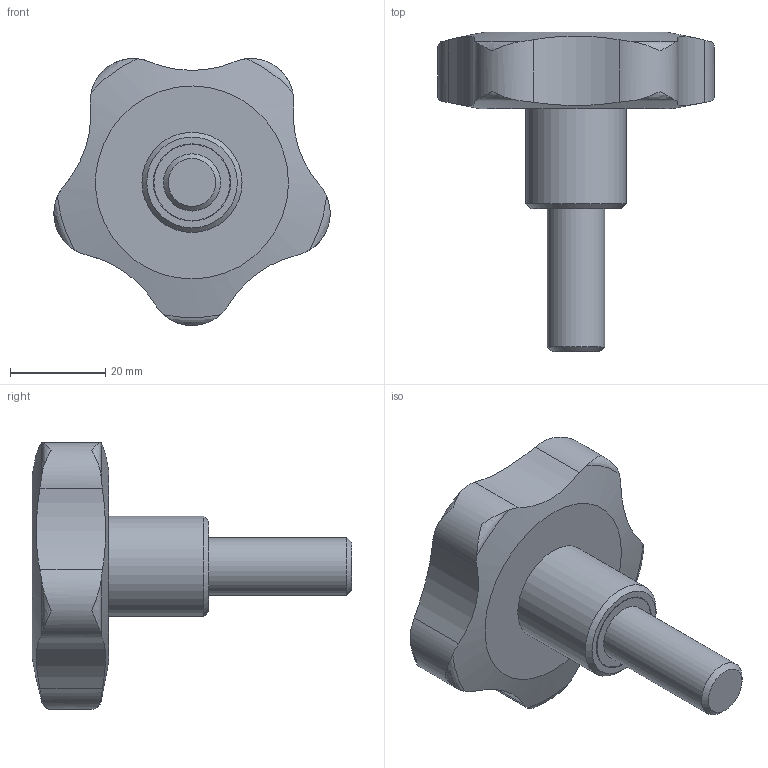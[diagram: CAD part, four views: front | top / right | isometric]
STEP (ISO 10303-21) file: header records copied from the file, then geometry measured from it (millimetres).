
FILE_DESCRIPTION( ( 'STEP AP203' ), '1' );
FILE_NAME( 'C:/Temp/Ganter_Step_05_03_2020/data/2_2/gn_5337_4/gn_5337_4_s/Star knob GN 5337.4-60-M12-30.stp', '2020-03-05T12:09:51', ( 'License CC BY-ND 4.0' ), ( 'CADENAS' ), ' ', 'PARTsolutions', ' ' );
FILE_SCHEMA( ( 'CONFIG_CONTROL_DESIGN' ) );
Length unit declared in the file: millimetre
Products named in the file (1): _Star knob GN 5337.4-60-M12-30
Bounding box: 57.93 x 67 x 55.99 mm (x, y, z)
Volume: 43811.2 mm3; surface area: 9358.8 mm2
Topology: 1 solids, 1 shells, 34 faces, 90 edges, 61 vertices
Faces by surface type: cylinder 14, torus 10, plane 5, cone 3, bspline 1, sphere 1
Full cylindrical faces by diameter (mm): 12 x1, 16 x1, 16.2 x1, 21 x1
Entity records: 1493 total; most frequent: CARTESIAN_POINT 730, ORIENTED_EDGE 154, DIRECTION 122, EDGE_CURVE 77, VERTEX_POINT 58, AXIS2_PLACEMENT_3D 56, EDGE_LOOP 46, B_SPLINE_CURVE_WITH_KNOTS 45
